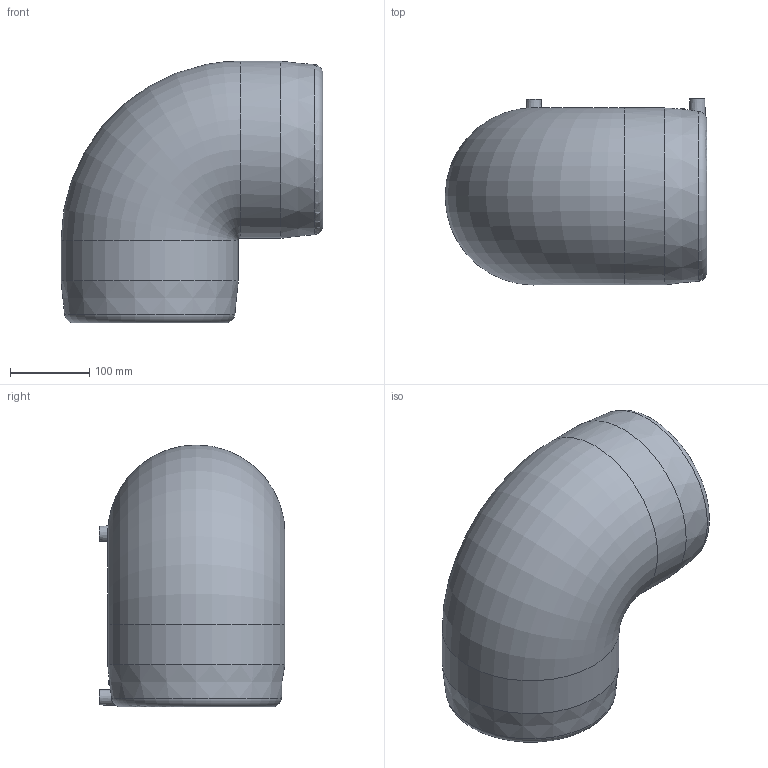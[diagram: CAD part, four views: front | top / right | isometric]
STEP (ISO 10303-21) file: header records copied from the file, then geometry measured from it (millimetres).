
FILE_DESCRIPTION(/* description */ ('Unknown'),/* implementation_level */ '2;1');
FILE_NAME(/* name */ 'GE9P180C',/* time_stamp */ '2021-02-11T16:34:22+01:00',/* author */ ('Unknown'),/* organization */ ('Unknown'),/* preprocessor_version */ 'ST-DEVELOPER v16.7',/* originating_system */ 'Solid Edge',/* authorisation */ 'Unknown');
FILE_SCHEMA (('AUTOMOTIVE_DESIGN {1 0 10303 214 3 1 1}'));
Length unit declared in the file: millimetre
Products named in the file (1): GE9P180C
Bounding box: 331 x 235 x 331 mm (x, y, z)
Volume: 5789166.5 mm3; surface area: 512450.9 mm2
Topology: 1 solids, 1 shells, 32 faces, 66 edges, 44 vertices
Faces by surface type: plane 12, cylinder 12, cone 4, torus 4
Full cylindrical faces by diameter (mm): 4 x2, 6 x2, 12 x2, 180 x2, 224 x2
Entity records: 843 total; most frequent: CARTESIAN_POINT 257, DIRECTION 120, ORIENTED_EDGE 78, AXIS2_PLACEMENT_3D 60, EDGE_LOOP 59, FACE_BOUND 59, EDGE_CURVE 39, VERTEX_POINT 34
